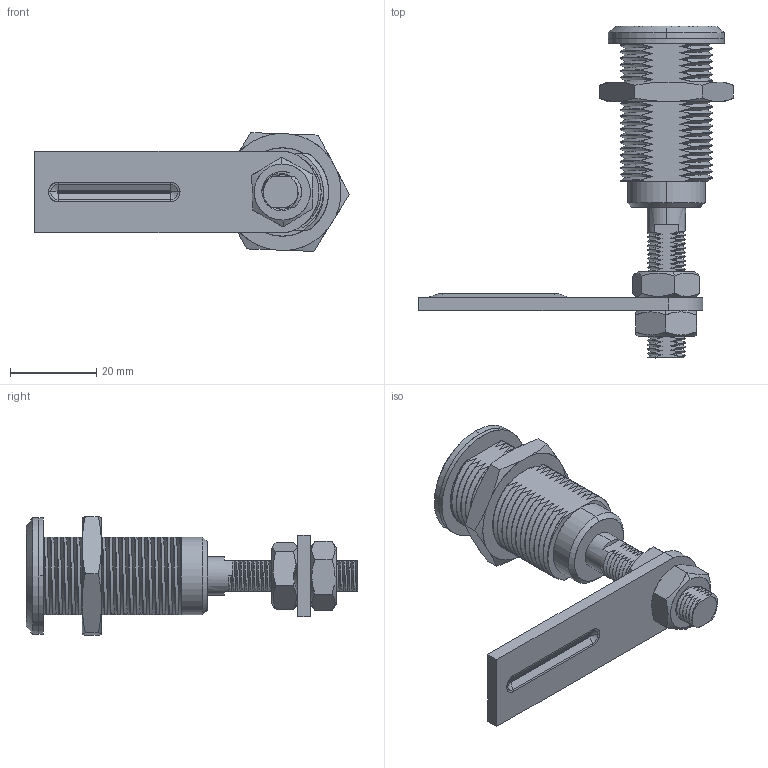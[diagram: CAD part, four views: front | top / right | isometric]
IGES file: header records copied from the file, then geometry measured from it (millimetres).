
Start section: SolidWorks IGES file using analytic representation for surfaces
Global section: file name: D:\尚坤工业图纸\SK1--门锁系列\SK1-016-40\SK1-016-40.IGS; native system: SolidWorks 2015; preprocessor: SolidWorks 2015; author: admin; date: 181101.102232; units: millimetre
Bounding box: 73.08 x 77 x 27.56 mm (x, y, z)
Surface area: 13338 mm2 (no closed solid volume)
Topology: 0 solids, 0 shells, 484 faces, 6905 edges, 6905 vertices
Faces by surface type: bspline 297, revolution 187
